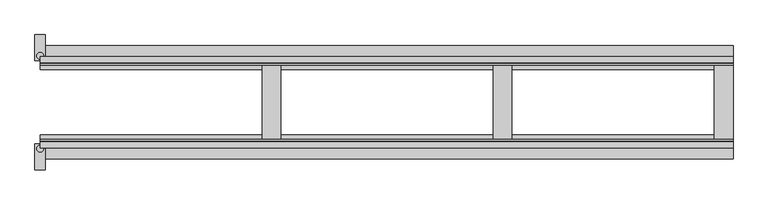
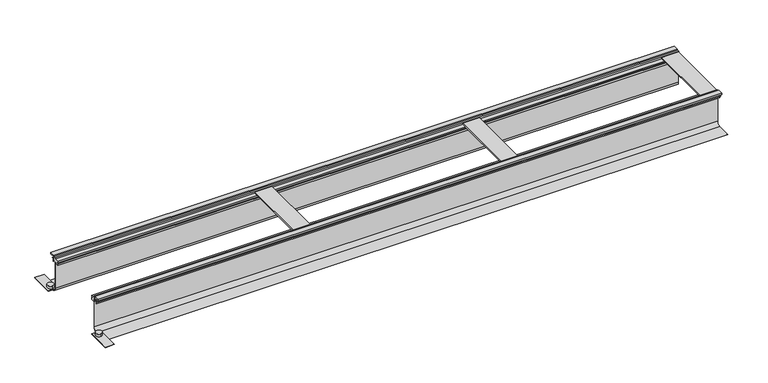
"""IFC4 building model written with IfcOpenShell, lengths in millimetres: proxy geometry, Electrical_Installation_Hager_BKF-Trunking-System-With-Flexible-Screed-Casing-For-Dry-Cleaned-Floors : Nominal Size 300  Length 2.4 m."""

from ifc_helpers import new_model, si_unit, point, frame, frame_2d, origin, place, context, project, spatial, polyline, circle_curve, trimmed, segment, composite_curve, outline, extrude, source, transform, mapped, element, save


def electrical_fixtures_989a82f7(model_context):
    return source(origin(), model_context, "Body", "SweptSolid", [
        extrude(outline(composite_curve([segment(trimmed(circle_curve(frame_2d((0.0, 161.1652527)), 12.0), [point((0.0, 173.1652527))], [point((0.0, 149.1652527))], False, "CARTESIAN"), True, "CONTINUOUS"), segment(trimmed(circle_curve(frame_2d((0.0, 161.1652527)), 12.0), [point((0.0, 149.1652527))], [point((0.0, 173.1652527))], False, "CARTESIAN"), True, "CONTINUOUS")], self_intersect=False)), frame((0.0, 0.0, -129.7), z_axis=(0.0, 0.0, 1.0), x_axis=(1.0, 0.0, 0.0)), (0.0, 0.0, 1.0), 10.7),
        extrude(outline(composite_curve([segment(trimmed(circle_curve(frame_2d((0.0, -161.112037)), 12.0), [point((0.0, -149.112037))], [point((0.0, -173.112037))], False, "CARTESIAN"), True, "CONTINUOUS"), segment(trimmed(circle_curve(frame_2d((0.0, -161.112037)), 12.0), [point((0.0, -173.112037))], [point((0.0, -149.112037))], False, "CARTESIAN"), True, "CONTINUOUS")], self_intersect=False)), frame((0.0, 0.0, -129.7), z_axis=(0.0, 0.0, 1.0), x_axis=(1.0, 0.0, 0.0)), (0.0, 0.0, 1.0), 10.7),
        extrude(outline(polyline([(18.0, 144.1), (-18.0, 144.1), (-18.0, 234.1), (18.0, 234.1), (18.0, 144.1)])), frame((0.0, 0.0, -131.2), z_axis=(0.0, 0.0, 1.0), x_axis=(1.0, 0.0, 0.0)), (0.0, 0.0, 1.0), 1.5),
        extrude(outline(polyline([(18.0, -234.1), (-18.0, -234.1), (-18.0, -144.1), (18.0, -144.1), (18.0, -234.1)])), frame((0.0, 0.0, -131.2), z_axis=(0.0, 0.0, 1.0), x_axis=(1.0, 0.0, 0.0)), (0.0, 0.0, 1.0), 1.5),
        extrude(outline(polyline([(2400.0, 130.0), (2400.0, -130.0), (2335.0, -130.0), (2335.0, 130.0), (2400.0, 130.0)])), frame((0.0, 0.0, 2.5), z_axis=(0.0, 0.0, 1.0), x_axis=(1.0, 0.0, 0.0)), (0.0, 0.0, 1.0), 4.2),
        extrude(outline(polyline([(1633.5851476, 129.8), (1633.5851476, -129.8), (1568.585332, -129.8), (1568.585332, 129.8), (1633.5851476, 129.8)])), frame((0.0, 0.0, 2.5), z_axis=(0.0, 0.0, 1.0), x_axis=(1.0, 0.0, 0.0)), (0.0, 0.0, 1.0), 4.2),
        extrude(outline(polyline([(833.5851476, 129.8), (833.5851476, -129.8), (768.585332, -129.8), (768.585332, 129.8), (833.5851476, 129.8)])), frame((0.0, 0.0, 2.5), z_axis=(0.0, 0.0, 1.0), x_axis=(1.0, 0.0, 0.0)), (0.0, 0.0, 1.0), 4.2),
        extrude(outline(polyline([(158.0, 6.7), (140.0, 6.7), (140.0, -2.5), (150.475, -2.5), (150.475, -4.0), (144.6, -4.0), (144.6, -14.0), (143.1, -14.0), (143.1, -4.0), (135.1, -4.0), (135.1, -10.1), (123.3, -10.1), (123.3, -14.0), (113.1, -14.0), (113.1, -6.6607064), (116.0, -6.6607064), (116.0, -12.5), (120.7, -12.5), (120.7, 0.5), (116.0, 0.5), (116.0, -2.1), (112.9910979, -2.1), (112.9910979, 2.5), (129.8, 2.5), (129.8, 10.0), (135.0, 10.0), (135.0, -0.5), (138.0, -0.5), (138.0, 13.0), (158.0, 13.0), (158.0, 6.7)])), frame((0.0, 0.0, 0.0), z_axis=(1.0, 0.0, 0.0), x_axis=(0.0, 1.0, 0.0)), (0.0, 0.0, 1.0), 2400.0),
        extrude(outline(polyline([(-158.0, 6.7), (-158.0, 13.0), (-138.0, 13.0), (-138.0, -0.5), (-135.0, -0.5), (-135.0, 10.0), (-129.8, 10.0), (-129.8, 2.5), (-112.9910979, 2.5), (-112.9910979, -2.1), (-116.0, -2.1), (-116.0, 0.5), (-120.7, 0.5), (-120.7, -12.5), (-116.0, -12.5), (-116.0, -6.6607064), (-113.1, -6.6607064), (-113.1, -14.0), (-123.3, -14.0), (-123.3, -10.1), (-135.1, -10.1), (-135.1, -4.0), (-143.1, -4.0), (-143.1, -14.0), (-144.6, -14.0), (-144.6, -4.0), (-150.475, -4.0), (-150.475, -2.5), (-140.0, -2.5), (-140.0, 6.7), (-158.0, 6.7)])), frame((0.0, 0.0, 0.0), z_axis=(1.0, 0.0, 0.0), x_axis=(0.0, 1.0, 0.0)), (0.0, 0.0, 1.0), 2400.0),
        extrude(outline(composite_curve([segment(polyline([(130.1407967, -1.2), (130.9257245, -1.2), (130.9257245, -116.2)]), True, "CONTINUOUS"), segment(trimmed(circle_curve(frame_2d((145.9257245, -116.2)), 15.0), [point((130.9257245, -116.2))], [point((145.9257245, -131.2))], True, "CARTESIAN"), True, "CONTINUOUS"), segment(polyline([(145.9257245, -131.2), (197.2934005, -131.2), (197.2934005, -131.9992624), (145.1407967, -131.9992624)]), True, "CONTINUOUS"), segment(trimmed(circle_curve(frame_2d((145.1407967, -116.9992624)), 15.0), [point((145.1407967, -131.9992624))], [point((130.1407967, -116.9992624))], False, "CARTESIAN"), True, "CONTINUOUS"), segment(polyline([(130.1407967, -116.9992624), (130.1407967, -1.2)]), True, "CONTINUOUS")], self_intersect=False)), frame((0.0, 0.0, 0.0), z_axis=(1.0, 0.0, 0.0), x_axis=(0.0, 1.0, 0.0)), (0.0, 0.0, 1.0), 2400.0),
        extrude(outline(composite_curve([segment(polyline([(-130.1407967, -1.2), (-130.1407967, -116.9992624)]), True, "CONTINUOUS"), segment(trimmed(circle_curve(frame_2d((-145.1407967, -116.9992624)), 15.0), [point((-130.1407967, -116.9992624))], [point((-145.1407967, -131.9992624))], False, "CARTESIAN"), True, "CONTINUOUS"), segment(polyline([(-145.1407967, -131.9992624), (-197.2934005, -131.9992624), (-197.2934005, -131.2), (-145.9257245, -131.2)]), True, "CONTINUOUS"), segment(trimmed(circle_curve(frame_2d((-145.9257245, -116.2)), 15.0), [point((-145.9257245, -131.2))], [point((-130.9257245, -116.2))], True, "CARTESIAN"), True, "CONTINUOUS"), segment(polyline([(-130.9257245, -116.2), (-130.9257245, -1.2), (-130.1407967, -1.2)]), True, "CONTINUOUS")], self_intersect=False)), frame((0.0, 0.0, 0.0), z_axis=(1.0, 0.0, 0.0), x_axis=(0.0, 1.0, 0.0)), (0.0, 0.0, 1.0), 2400.0),
    ])


if __name__ == "__main__":
    model = new_model("IFC4")
    model_context = context("Model", 3, world=origin())
    ifc_project = project(units=[si_unit("LENGTHUNIT", "METRE", prefix="MILLI")], contexts=[model_context])
    site = spatial("IfcSite", under=ifc_project)
    building = spatial("IfcBuilding", under=site)
    placement = place(None, origin())
    electrical_fixtures_shape = electrical_fixtures_989a82f7(model_context)
    element("IfcBuildingElementProxy", 1, Name="Electrical_Installation_Hager_BKF-Trunking-System-With-Flexible-Screed-Casing-For-Dry-Cleaned-Floors : Nominal Size 300  Length 2.4 m", ObjectType="Electrical_Installation_Hager_BKF-Trunking-System-With-Flexible-Screed-Casing-For-Dry-Cleaned-Floors : Nominal Size 300  Length 2.4 m", at=placement, inside=building, context=model_context, shape_type="MappedRepresentation", body=[
        mapped(electrical_fixtures_shape, transform((0.0, 0.0, 0.0), x_axis=(1.0, 0.0, 0.0), y_axis=(0.0, 1.0, 0.0), z_axis=(0.0, 0.0, 1.0))),
    ])
    save(model, "model.ifc")
